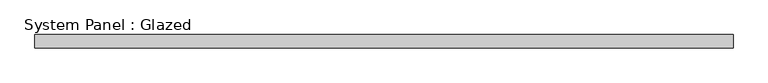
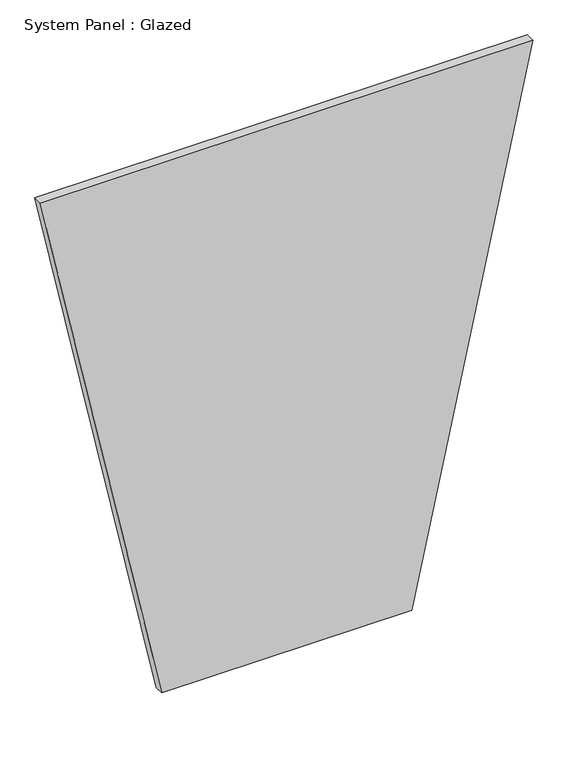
"""IFC4 building model written with IfcOpenShell, lengths in millimetres: plate geometry, System Panel : Glazed."""

import ifcopenshell
import ifcopenshell.guid

model = None  # the IFC model being written
_history = None  # IfcOwnerHistory: only IFC2X3 demands one
_inside = {}  # id of a spatial element -> (the spatial element, [elements in it])
_under = {}  # id of a project, library or spatial element -> (it, [spatial elements below it])
_declared = {}  # id of a project -> (the project, [libraries it declares])
_typed = {}  # id of a type object -> (the type object, [elements of that type])
_made_of = {}  # id of a material, layer set ... -> (it, [elements and type objects made of it])


def new_model(schema):
    """Start an empty IFC model of exactly this schema.

    Asked for "IFC4X3", IfcOpenShell would pick the latest addendum, in which some entities
    have other attributes; the version numbers below select the first issue.
    IFC2X3 requires an IfcOwnerHistory on every rooted entity: one is made here for all.
    """
    global model, _history
    if schema == "IFC4X3":
        model = ifcopenshell.file(schema_version=(4, 3, 0, 0))
    else:
        model = ifcopenshell.file(schema=schema)
    _inside.clear()
    _under.clear()
    _declared.clear()
    _typed.clear()
    _made_of.clear()
    _history = None
    if model.schema == "IFC2X3":
        org = make("IfcOrganization", Name="unknown")
        user = make(
            "IfcPersonAndOrganization",
            ThePerson=make("IfcPerson", FamilyName="unknown"),
            TheOrganization=org,
        )
        app = make(
            "IfcApplication",
            ApplicationDeveloper=org,
            Version="unknown",
            ApplicationFullName="unknown",
            ApplicationIdentifier="unknown",
        )
        _history = make(
            "IfcOwnerHistory",
            OwningUser=user,
            OwningApplication=app,
            ChangeAction="ADDED",
            CreationDate=0,
        )
    return model


def make(cls, **values):
    """One entity of the class cls with the attributes given. An attribute that is None is left unset."""
    return model.create_entity(
        cls, **{name: value for name, value in values.items() if value is not None}
    )


def rooted(cls, **values):
    """An entity with a GlobalId (a new one), such as an element, a storey or a relation."""
    return make(cls, GlobalId=ifcopenshell.guid.new(), OwnerHistory=_history, **values)


def si_unit(unit_type, name, prefix=None):
    """IfcSIUnit, for example si_unit("LENGTHUNIT", "METRE", prefix="MILLI")."""
    return make("IfcSIUnit", UnitType=unit_type, Prefix=prefix, Name=name)


def assignment(units):
    """IfcUnitAssignment: the units of a project."""
    return None if units is None else make("IfcUnitAssignment", Units=units)


def point(xyz):
    """IfcCartesianPoint."""
    return None if xyz is None else make("IfcCartesianPoint", Coordinates=xyz)


def direction(xyz):
    """IfcDirection."""
    return None if xyz is None else make("IfcDirection", DirectionRatios=xyz)


def frame(location, z_axis=None, x_axis=None):
    """IfcAxis2Placement3D, a coordinate frame: its origin and axes. An axis left out is left unset."""
    return make(
        "IfcAxis2Placement3D",
        Location=point(location),
        Axis=direction(z_axis),
        RefDirection=direction(x_axis),
    )


def origin():
    """The frame at (0, 0, 0) with its axes left unset."""
    return frame((0.0, 0.0, 0.0))


def place(relative_to, where):
    """IfcLocalPlacement: puts the frame where relative to a parent placement (None: the world)."""
    return make(
        "IfcLocalPlacement", PlacementRelTo=relative_to, RelativePlacement=where
    )


def context(
    kind, dimensions, precision=None, world=None, true_north=None, identifier=None
):
    """IfcGeometricRepresentationContext, for example the 3D "Model" context."""
    return make(
        "IfcGeometricRepresentationContext",
        ContextIdentifier=identifier,
        ContextType=kind,
        CoordinateSpaceDimension=dimensions,
        Precision=precision,
        WorldCoordinateSystem=world,
        TrueNorth=true_north,
    )


def project(units=None, contexts=None):
    """IfcProject with its units and contexts."""
    return rooted(
        "IfcProject",
        Name="project",
        RepresentationContexts=contexts,
        UnitsInContext=assignment(units),
    )


def spatial(cls, under=None, at=None, **own):
    """A site, building, storey or space (cls), placed at a placement, below another one or the project."""
    s = rooted(cls, ObjectPlacement=at, **own)
    if under is not None:
        _under.setdefault(under.id(), (under, []))[1].append(s)
    return s


def polyline(points):
    """IfcPolyline through the points."""
    return make("IfcPolyline", Points=[point(p) for p in points])


def outline(outer, holes=None, kind="AREA"):
    """IfcArbitraryClosedProfileDef: a profile drawn as a closed curve; with holes, ...WithVoids."""
    if holes is None:
        return make("IfcArbitraryClosedProfileDef", ProfileType=kind, OuterCurve=outer)
    return make(
        "IfcArbitraryProfileDefWithVoids",
        ProfileType=kind,
        OuterCurve=outer,
        InnerCurves=holes,
    )


def extrude(swept, where, along, depth):
    """IfcExtrudedAreaSolid: the profile swept, set in the frame where, extruded along a direction by depth."""
    return make(
        "IfcExtrudedAreaSolid",
        SweptArea=swept,
        Position=where,
        ExtrudedDirection=direction(along),
        Depth=depth,
    )


def shape(context_of_items, identifier, shape_type, items):
    """IfcShapeRepresentation: the items that make up one representation, for example the "Body"."""
    return make(
        "IfcShapeRepresentation",
        ContextOfItems=context_of_items,
        RepresentationIdentifier=identifier,
        RepresentationType=shape_type,
        Items=items,
    )


def source(mapping_origin, context_of_items, identifier, shape_type, items):
    """IfcRepresentationMap: a shape defined once, which mapped items show again and again."""
    return make(
        "IfcRepresentationMap",
        MappingOrigin=mapping_origin,
        MappedRepresentation=shape(context_of_items, identifier, shape_type, items),
    )


def transform(
    local_origin,
    x_axis=None,
    y_axis=None,
    z_axis=None,
    scale=None,
    scale2=None,
    scale3=None,
    uniform=True,
):
    """IfcCartesianTransformationOperator3D, or its non-uniform kind. x_axis, y_axis, z_axis: its Axis1, 2, 3."""
    if uniform:
        return make(
            "IfcCartesianTransformationOperator3D",
            Axis1=direction(x_axis),
            Axis2=direction(y_axis),
            LocalOrigin=point(local_origin),
            Scale=scale,
            Axis3=direction(z_axis),
        )
    return make(
        "IfcCartesianTransformationOperator3DnonUniform",
        Axis1=direction(x_axis),
        Axis2=direction(y_axis),
        LocalOrigin=point(local_origin),
        Scale=scale,
        Axis3=direction(z_axis),
        Scale2=scale2,
        Scale3=scale3,
    )


def mapped(mapping_source, mapping_target):
    """IfcMappedItem: shows the shape of a source again, moved by a transform."""
    return make(
        "IfcMappedItem", MappingSource=mapping_source, MappingTarget=mapping_target
    )


def made_of(thing, what):
    """Note that an element or type object is made of a material, layer set ...; save() writes the relation."""
    if what is not None:
        _made_of.setdefault(what.id(), (what, []))[1].append(thing)
    return thing


def element(
    cls,
    number,
    at=None,
    inside=None,
    cuts=None,
    type_object=None,
    material=None,
    context=None,
    identifier="Body",
    shape_type=None,
    held_by="IfcProductDefinitionShape",
    body=None,
    shapes=None,
    **own,
):
    """One element of the class cls, such as IfcWall. Its Tag is "e" and its number.

    at: its placement. inside: the storey or other place that contains it. cuts: it is an
    opening in that element (IfcRelVoidsElement). A single representation is given by context,
    identifier, shape_type and body (its items); several are given by shapes. held_by: the class
    of the entity that holds the representations. save() writes the other relations.
    """
    e = rooted(cls, Tag="e%d" % number, ObjectPlacement=at, **own)
    if body is not None:
        shapes = [shape(context, identifier, shape_type, body)]
    if shapes is not None:
        e.Representation = make(held_by, Representations=shapes)
    if inside is not None:
        _inside.setdefault(inside.id(), (inside, []))[1].append(e)
    if cuts is not None:
        rooted(
            "IfcRelVoidsElement", RelatingBuildingElement=cuts, RelatedOpeningElement=e
        )
    if type_object is not None:
        _typed.setdefault(type_object.id(), (type_object, []))[1].append(e)
    return made_of(e, material)


def aggregate(whole, parts):
    """IfcRelAggregates: a whole, such as a stair, and the parts it consists of."""
    return rooted("IfcRelAggregates", RelatingObject=whole, RelatedObjects=parts)


def save(model, path):
    """Write the relations noted so far, then the file.

    IfcRelAggregates (storeys below a building ...), IfcRelContainedInSpatialStructure (elements
    in a storey), IfcRelDefinesByType, IfcRelAssociatesMaterial and IfcRelDeclares: one each for
    every whole, place, type object, material and project.
    """
    for whole, parts in _under.values():
        aggregate(whole, parts)
    for where, things in _inside.values():
        rooted(
            "IfcRelContainedInSpatialStructure",
            RelatedElements=things,
            RelatingStructure=where,
        )
    for kind, things in _typed.values():
        rooted("IfcRelDefinesByType", RelatedObjects=things, RelatingType=kind)
    for what, things in _made_of.values():
        rooted("IfcRelAssociatesMaterial", RelatedObjects=things, RelatingMaterial=what)
    for by, libraries in _declared.values():
        rooted("IfcRelDeclares", RelatingContext=by, RelatedDefinitions=libraries)
    model.write(path)


def system_panel_glazed_7f2603d2(model_context):
    return source(origin(), model_context, "Body", "SweptSolid", [
        extrude(outline(polyline([(0.0, -332.5640647), (0.0, 332.5640647), (1489.5614777, 654.7171404), (1489.5614777, -654.7171404), (0.0, -332.5640647)])), frame((0.0, -44.45, 0.0), z_axis=(0.0, 1.0, 0.0), x_axis=(0.0, 0.0, 1.0)), (0.0, 0.0, 1.0), 25.4),
    ])


if __name__ == "__main__":
    model = new_model("IFC4")
    model_context = context("Model", 3, world=origin())
    ifc_project = project(units=[si_unit("LENGTHUNIT", "METRE", prefix="MILLI")], contexts=[model_context])
    site = spatial("IfcSite", under=ifc_project)
    building = spatial("IfcBuilding", under=site)
    placement = place(None, origin())
    system_panel_glazed_shape = system_panel_glazed_7f2603d2(model_context)
    element("IfcPlate", 1, ObjectType="System Panel : Glazed", at=placement, inside=building, context=model_context, shape_type="MappedRepresentation", body=[
        mapped(system_panel_glazed_shape, transform((0.0, 0.0, 0.0), x_axis=(1.0, 0.0, 0.0), y_axis=(0.0, 1.0, 0.0), z_axis=(0.0, 0.0, 1.0))),
    ])
    save(model, "model.ifc")
